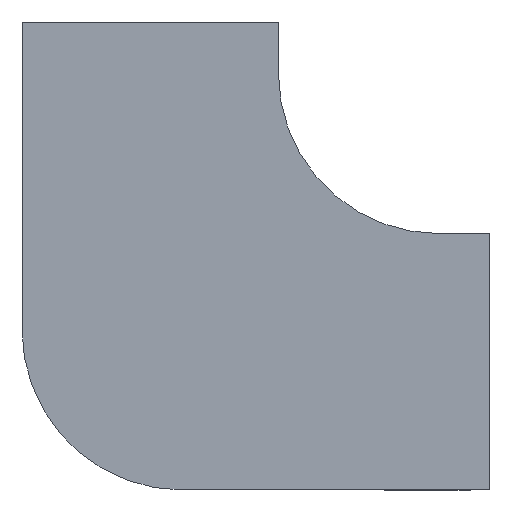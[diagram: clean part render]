
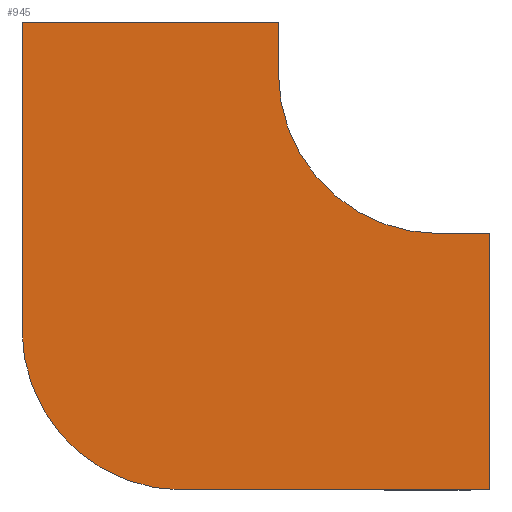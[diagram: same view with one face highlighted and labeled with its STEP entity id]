
A CAD part, front view. The second image highlights one B-rep face of the part: STEP entity #945.
In plain terms, the highlighted planar face has unit normal (0, -1, 0).
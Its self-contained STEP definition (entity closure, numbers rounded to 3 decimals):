
#2 = ORIENTED_EDGE ( 'NONE', *, *, #452, .F. ) ;
#41 = EDGE_CURVE ( 'NONE', #1561, #370, #1493, .T. ) ;
#51 = LINE ( 'NONE', #1037, #575 ) ;
#97 = CARTESIAN_POINT ( 'NONE',  ( -125., 0., 40. ) ) ;
#125 = DIRECTION ( 'NONE',  ( 1., 0., 0. ) ) ;
#156 = LINE ( 'NONE', #416, #1225 ) ;
#161 = EDGE_LOOP ( 'NONE', ( #732, #878, #616, #281, #1633, #891, #403, #2 ) ) ;
#168 = CARTESIAN_POINT ( 'NONE',  ( -125., 0., 0. ) ) ;
#193 = LINE ( 'NONE', #829, #1323 ) ;
#217 = EDGE_CURVE ( 'NONE', #1416, #818, #393, .T. ) ;
#245 = CARTESIAN_POINT ( 'NONE',  ( 40., 0., -125. ) ) ;
#251 = PLANE ( 'NONE',  #727 ) ;
#281 = ORIENTED_EDGE ( 'NONE', *, *, #451, .F. ) ;
#369 = CARTESIAN_POINT ( 'NONE',  ( 0., 0., 0. ) ) ;
#370 = VERTEX_POINT ( 'NONE', #1131 ) ;
#388 = VERTEX_POINT ( 'NONE', #97 ) ;
#390 = DIRECTION ( 'NONE',  ( 0., 0., -1. ) ) ;
#393 = CIRCLE ( 'NONE', #1061, 125. ) ;
#396 = DIRECTION ( 'NONE',  ( 0., 0., -1. ) ) ;
#403 = ORIENTED_EDGE ( 'NONE', *, *, #41, .F. ) ;
#416 = CARTESIAN_POINT ( 'NONE',  ( -125., 0., 40. ) ) ;
#419 = VERTEX_POINT ( 'NONE', #245 ) ;
#426 = CARTESIAN_POINT ( 'NONE',  ( 40., 0., -325. ) ) ;
#451 = EDGE_CURVE ( 'NONE', #1621, #1416, #1541, .T. ) ;
#452 = EDGE_CURVE ( 'NONE', #388, #1561, #156, .T. ) ;
#485 = DIRECTION ( 'NONE',  ( 0., 1., 0. ) ) ;
#575 = VECTOR ( 'NONE', #390, 1000. ) ;
#590 = VERTEX_POINT ( 'NONE', #1322 ) ;
#616 = ORIENTED_EDGE ( 'NONE', *, *, #217, .F. ) ;
#647 = EDGE_CURVE ( 'NONE', #370, #419, #961, .T. ) ;
#712 = VECTOR ( 'NONE', #1147, 1000. ) ;
#727 = AXIS2_PLACEMENT_3D ( 'NONE', #1174, #804, #1055 ) ;
#732 = ORIENTED_EDGE ( 'NONE', *, *, #1422, .F. ) ;
#788 = CARTESIAN_POINT ( 'NONE',  ( -325., 0., -200. ) ) ;
#804 = DIRECTION ( 'NONE',  ( 0., -1., 0. ) ) ;
#818 = VERTEX_POINT ( 'NONE', #788 ) ;
#824 = CARTESIAN_POINT ( 'NONE',  ( -325., 0., 40. ) ) ;
#829 = CARTESIAN_POINT ( 'NONE',  ( -325., 0., -200. ) ) ;
#836 = DIRECTION ( 'NONE',  ( 0., 0., 1. ) ) ;
#839 = DIRECTION ( 'NONE',  ( 0., 0., 1. ) ) ;
#870 = AXIS2_PLACEMENT_3D ( 'NONE', #369, #899, #1006 ) ;
#878 = ORIENTED_EDGE ( 'NONE', *, *, #1143, .F. ) ;
#891 = ORIENTED_EDGE ( 'NONE', *, *, #647, .F. ) ;
#897 = EDGE_CURVE ( 'NONE', #419, #1621, #51, .T. ) ;
#899 = DIRECTION ( 'NONE',  ( 0., -1., 0. ) ) ;
#945 = ADVANCED_FACE ( 'NONE', ( #1449 ), #251, .T. ) ;
#961 = LINE ( 'NONE', #1283, #1361 ) ;
#1006 = DIRECTION ( 'NONE',  ( 0., 0., -1. ) ) ;
#1037 = CARTESIAN_POINT ( 'NONE',  ( 40., 0., -125. ) ) ;
#1055 = DIRECTION ( 'NONE',  ( 0., 0., -1. ) ) ;
#1061 = AXIS2_PLACEMENT_3D ( 'NONE', #1089, #485, #839 ) ;
#1089 = CARTESIAN_POINT ( 'NONE',  ( -200., 0., -200. ) ) ;
#1131 = CARTESIAN_POINT ( 'NONE',  ( 0., 0., -125. ) ) ;
#1143 = EDGE_CURVE ( 'NONE', #818, #590, #193, .T. ) ;
#1147 = DIRECTION ( 'NONE',  ( -1., 0., 0. ) ) ;
#1174 = CARTESIAN_POINT ( 'NONE',  ( 0., 0., 0. ) ) ;
#1217 = VECTOR ( 'NONE', #1558, 1000. ) ;
#1225 = VECTOR ( 'NONE', #396, 1000. ) ;
#1283 = CARTESIAN_POINT ( 'NONE',  ( 0., 0., -125. ) ) ;
#1322 = CARTESIAN_POINT ( 'NONE',  ( -325., 0., 40. ) ) ;
#1323 = VECTOR ( 'NONE', #836, 1000. ) ;
#1361 = VECTOR ( 'NONE', #125, 1000. ) ;
#1416 = VERTEX_POINT ( 'NONE', #1451 ) ;
#1422 = EDGE_CURVE ( 'NONE', #590, #388, #1465, .T. ) ;
#1424 = CARTESIAN_POINT ( 'NONE',  ( 40., 0., -325. ) ) ;
#1449 = FACE_OUTER_BOUND ( 'NONE', #161, .T. ) ;
#1451 = CARTESIAN_POINT ( 'NONE',  ( -200., 0., -325. ) ) ;
#1465 = LINE ( 'NONE', #824, #1217 ) ;
#1493 = CIRCLE ( 'NONE', #870, 125. ) ;
#1541 = LINE ( 'NONE', #1424, #712 ) ;
#1558 = DIRECTION ( 'NONE',  ( 1., 0., 0. ) ) ;
#1561 = VERTEX_POINT ( 'NONE', #168 ) ;
#1621 = VERTEX_POINT ( 'NONE', #426 ) ;
#1633 = ORIENTED_EDGE ( 'NONE', *, *, #897, .F. ) ;
